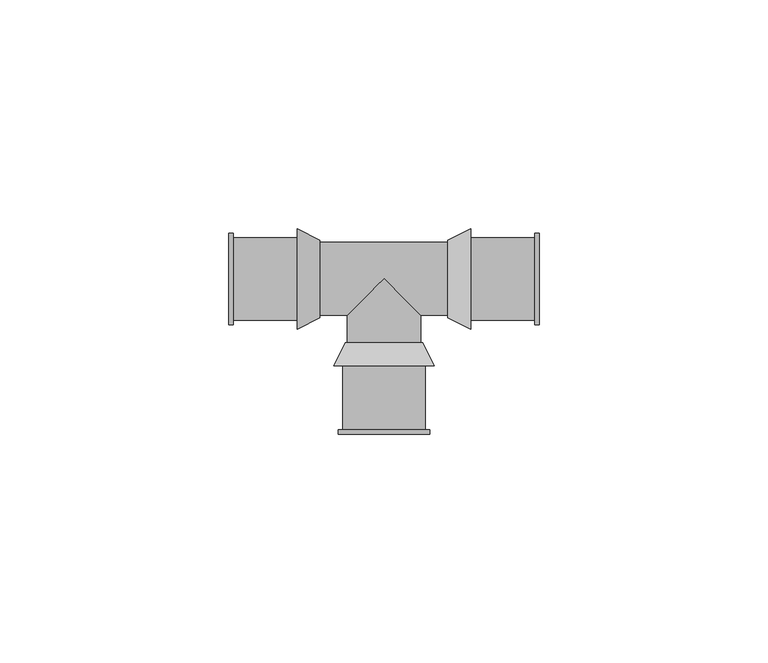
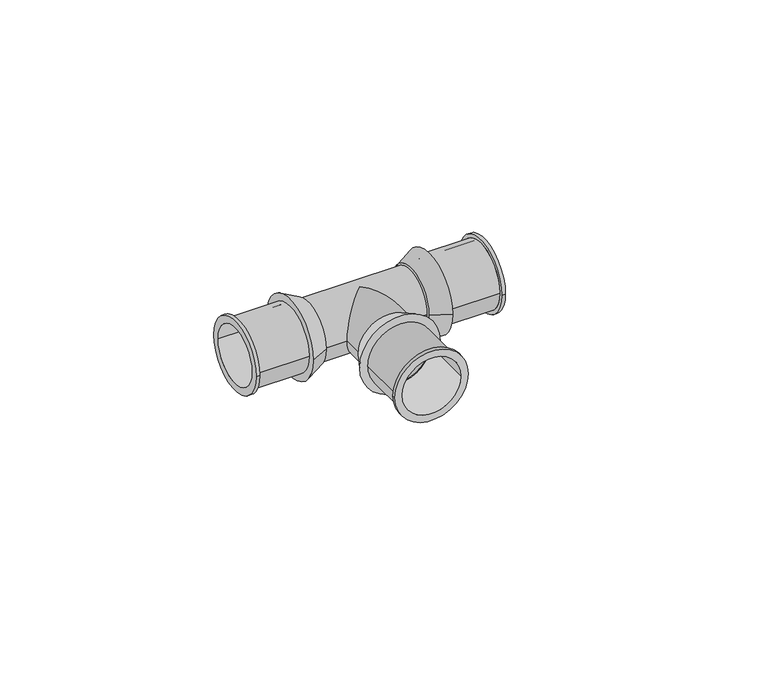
"""IFC4 building model written with IfcOpenShell, lengths in millimetres: pipe fitting geometry, SuperPipe_Tee_SPressPlus : SuperPipe_Tee_SPressPlus."""

from ifc_helpers import new_model, si_unit, point, frame, origin, origin_2d, place, context, project, spatial, polyline, circle_curve, ellipse_curve, trimmed, segment, composite_curve, outline, extrude, source, transform, mapped, element, save
from ifc_brep_helpers import plane_surface, cylinder_surface, revolved_surface, advanced_brep


def pipe_fitting_482c86fa(model_context):
    return source(origin(), model_context, "Body", "SolidModel", [
        advanced_brep(
        [(-34.0, -10.0, 0.0), (-34.0, 10.0, 0.0), (-34.0, -8.0, 0.0), (-34.0, 8.0, 0.0), (-19.0, -9.0, 0.0), (-19.0, 9.0, 0.0), (-19.0, -8.0, 0.0), (-19.0, 8.0, 0.0), (-33.0, -8.0, 0.0), (-33.0, 8.0, 0.0), (-33.0, 9.0, 0.0), (-33.0, -9.0, 0.0), (-33.0, -10.0, 0.0), (-33.0, 10.0, 0.0)],
        [
            (0, 1, circle_curve(frame((-34.0, 0.0, 0.0), z_axis=(-1.0, 0.0, 0.0), x_axis=(0.0, 1.0, 0.0)), 10.0)),
            (1, 0, circle_curve(frame((-34.0, 0.0, 0.0), z_axis=(-1.0, 0.0, 0.0), x_axis=(0.0, 1.0, 0.0)), 10.0)),
            (2, 3, circle_curve(frame((-34.0, 0.0, 0.0), z_axis=(1.0, 0.0, 0.0), x_axis=(0.0, 1.0, 0.0)), 8.0)),
            (3, 2, circle_curve(frame((-34.0, 0.0, 0.0), z_axis=(1.0, 0.0, 0.0), x_axis=(0.0, 1.0, 0.0)), 8.0)),
            (4, 5, circle_curve(frame((-19.0, 0.0, 0.0), z_axis=(1.0, 0.0, 0.0), x_axis=(0.0, 1.0, 0.0)), 9.0)),
            (5, 4, circle_curve(frame((-19.0, 0.0, 0.0), z_axis=(1.0, 0.0, 0.0), x_axis=(0.0, 1.0, 0.0)), 9.0)),
            (6, 7, circle_curve(frame((-19.0, 0.0, 0.0), z_axis=(-1.0, 0.0, 0.0), x_axis=(0.0, 1.0, 0.0)), 8.0)),
            (7, 6, circle_curve(frame((-19.0, 0.0, 0.0), z_axis=(-1.0, 0.0, 0.0), x_axis=(0.0, 1.0, 0.0)), 8.0)),
            (2, 8),
            (8, 6),
            (7, 9),
            (9, 3),
            (5, 10),
            (10, 11, circle_curve(frame((-33.0, 0.0, 0.0), z_axis=(1.0, 0.0, 0.0), x_axis=(0.0, 1.0, 0.0)), 9.0)),
            (11, 4),
            (11, 10, circle_curve(frame((-33.0, 0.0, 0.0), z_axis=(1.0, 0.0, 0.0), x_axis=(0.0, 1.0, 0.0)), 9.0)),
            (12, 13, circle_curve(frame((-33.0, 0.0, 0.0), z_axis=(1.0, 0.0, 0.0), x_axis=(0.0, 1.0, 0.0)), 10.0)),
            (13, 12, circle_curve(frame((-33.0, 0.0, 0.0), z_axis=(1.0, 0.0, 0.0), x_axis=(0.0, 1.0, 0.0)), 10.0)),
            (0, 12),
            (13, 1),
        ],
        [
            plane_surface(frame((-34.0, 0.0, 0.0), z_axis=(-1.0, 0.0, 0.0), x_axis=(0.0, 0.0, 1.0))),
            plane_surface(frame((-19.0, 0.0, 0.0), z_axis=(1.0, 0.0, 0.0), x_axis=(0.0, 0.0, 1.0))),
            revolved_surface(polyline([(-19.0, 8.0, 0.0), (-34.0, 8.0, 0.0)]), (-34.0, 0.0, 0.0), (1.0, 0.0, 0.0)),
            cylinder_surface(frame((-34.0, 0.0, 0.0), z_axis=(-1.0, 0.0, 0.0), x_axis=(0.0, 1.0, 0.0)), 9.0),
            plane_surface(frame((-33.0, 0.0, 0.0), z_axis=(1.0, 0.0, 0.0), x_axis=(0.0, 0.0, 1.0))),
            cylinder_surface(frame((-34.0, 0.0, 0.0), z_axis=(-1.0, 0.0, 0.0), x_axis=(0.0, 1.0, 0.0)), 10.0),
        ],
        [
            (0, [[1, 2], [3, 4]]),
            (1, [[5, 6], [7, 8]]),
            (2, [[-3, 9, 10, -8, 11, 12]]),
            (2, [[-4, -12, -11, -7, -10, -9]]),
            (3, [[-6, 13, 14, 15]]),
            (3, [[-5, -15, 16, -13]]),
            (4, [[17, 18], [-14, -16]]),
            (5, [[-1, 19, -18, 20]]),
            (5, [[-2, -20, -17, -19]]),
        ],
    ),
        advanced_brep(
        [(19.0, -9.0, 0.0), (19.0, 9.0, 0.0), (19.0, -8.0, 0.0), (19.0, 8.0, 0.0), (34.0, -10.0, 0.0), (34.0, 10.0, 0.0), (34.0, -8.0, 0.0), (34.0, 8.0, 0.0), (33.0, -9.0, 0.0), (33.0, 9.0, 0.0), (33.0, -8.0, 0.0), (33.0, 8.0, 0.0), (33.0, -10.0, 0.0), (33.0, 10.0, 0.0)],
        [
            (0, 1, circle_curve(frame((19.0, 0.0, 0.0), z_axis=(-1.0, 0.0, 0.0), x_axis=(0.0, 1.0, 0.0)), 9.0)),
            (1, 0, circle_curve(frame((19.0, 0.0, 0.0), z_axis=(-1.0, 0.0, 0.0), x_axis=(0.0, 1.0, 0.0)), 9.0)),
            (2, 3, circle_curve(frame((19.0, 0.0, 0.0), z_axis=(1.0, 0.0, 0.0), x_axis=(0.0, 1.0, 0.0)), 8.0)),
            (3, 2, circle_curve(frame((19.0, 0.0, 0.0), z_axis=(1.0, 0.0, 0.0), x_axis=(0.0, 1.0, 0.0)), 8.0)),
            (4, 5, circle_curve(frame((34.0, 0.0, 0.0), z_axis=(1.0, 0.0, 0.0), x_axis=(0.0, 1.0, 0.0)), 10.0)),
            (5, 4, circle_curve(frame((34.0, 0.0, 0.0), z_axis=(1.0, 0.0, 0.0), x_axis=(0.0, 1.0, 0.0)), 10.0)),
            (6, 7, circle_curve(frame((34.0, 0.0, 0.0), z_axis=(-1.0, 0.0, 0.0), x_axis=(0.0, 1.0, 0.0)), 8.0)),
            (7, 6, circle_curve(frame((34.0, 0.0, 0.0), z_axis=(-1.0, 0.0, 0.0), x_axis=(0.0, 1.0, 0.0)), 8.0)),
            (0, 8),
            (8, 9, circle_curve(frame((33.0, 0.0, 0.0), z_axis=(-1.0, 0.0, 0.0), x_axis=(0.0, 1.0, 0.0)), 9.0)),
            (9, 1),
            (9, 8, circle_curve(frame((33.0, 0.0, 0.0), z_axis=(-1.0, 0.0, 0.0), x_axis=(0.0, 1.0, 0.0)), 9.0)),
            (2, 10),
            (10, 6),
            (7, 11),
            (11, 3),
            (12, 13, circle_curve(frame((33.0, 0.0, 0.0), z_axis=(-1.0, 0.0, 0.0), x_axis=(0.0, 1.0, 0.0)), 10.0)),
            (13, 12, circle_curve(frame((33.0, 0.0, 0.0), z_axis=(-1.0, 0.0, 0.0), x_axis=(0.0, 1.0, 0.0)), 10.0)),
            (12, 4),
            (5, 13),
        ],
        [
            plane_surface(frame((19.0, 0.0, 0.0), z_axis=(-1.0, 0.0, 0.0), x_axis=(0.0, 0.0, 1.0))),
            plane_surface(frame((34.0, 0.0, 0.0), z_axis=(1.0, 0.0, 0.0), x_axis=(0.0, 0.0, 1.0))),
            cylinder_surface(frame((19.0, 0.0, 0.0), z_axis=(-1.0, 0.0, 0.0), x_axis=(0.0, 1.0, 0.0)), 9.0),
            revolved_surface(polyline([(34.0, 8.0, 0.0), (19.0, 8.0, 0.0)]), (19.0, 0.0, 0.0), (1.0, 0.0, 0.0)),
            plane_surface(frame((33.0, 0.0, 0.0), z_axis=(-1.0, 0.0, 0.0), x_axis=(0.0, 0.0, 1.0))),
            cylinder_surface(frame((33.0, 0.0, 0.0), z_axis=(-1.0, 0.0, 0.0), x_axis=(0.0, 1.0, 0.0)), 10.0),
        ],
        [
            (0, [[1, 2], [3, 4]]),
            (1, [[5, 6], [7, 8]]),
            (2, [[-1, 9, 10, 11]]),
            (2, [[-2, -11, 12, -9]]),
            (3, [[-3, 13, 14, -8, 15, 16]]),
            (3, [[-4, -16, -15, -7, -14, -13]]),
            (4, [[17, 18], [-10, -12]]),
            (5, [[-17, 19, -6, 20]]),
            (5, [[-18, -20, -5, -19]]),
        ],
    ),
        advanced_brep(
        [(-11.0, -19.0, 0.0), (11.0, -19.0, 0.0), (-8.0, -19.0, 0.0), (8.0, -19.0, 0.0), (-8.5, -14.0, 0.0), (8.5, -14.0, 0.0), (-8.0, -15.0, 0.0), (8.0, -15.0, 0.0)],
        [
            (0, 1, circle_curve(frame((0.0, -19.0, 0.0), z_axis=(0.0, -1.0, 0.0), x_axis=(-1.0, 0.0, 0.0)), 11.0)),
            (1, 0, circle_curve(frame((0.0, -19.0, 0.0), z_axis=(0.0, -1.0, 0.0), x_axis=(1.0, 0.0, 0.0)), 11.0)),
            (2, 3, circle_curve(frame((0.0, -19.0, 0.0), z_axis=(0.0, 1.0, 0.0), x_axis=(1.0, 0.0, 0.0)), 8.0)),
            (3, 2, circle_curve(frame((0.0, -19.0, 0.0), z_axis=(0.0, 1.0, 0.0), x_axis=(1.0, 0.0, 0.0)), 8.0)),
            (4, 5, circle_curve(frame((0.0, -14.0, 0.0), z_axis=(0.0, 1.0, 0.0), x_axis=(1.0, 0.0, 0.0)), 8.5)),
            (5, 4, circle_curve(frame((0.0, -14.0, 0.0), z_axis=(0.0, 1.0, 0.0), x_axis=(-1.0, 0.0, 0.0)), 8.5)),
            (0, 4),
            (5, 1),
            (6, 7, circle_curve(frame((0.0, -15.0, 0.0), z_axis=(0.0, -1.0, 0.0), x_axis=(1.0, 0.0, 0.0)), 8.0)),
            (7, 6, circle_curve(frame((0.0, -15.0, 0.0), z_axis=(0.0, -1.0, 0.0), x_axis=(1.0, 0.0, 0.0)), 8.0)),
            (7, 3),
            (2, 6),
        ],
        [
            plane_surface(frame((0.0, -19.0, 0.0), z_axis=(0.0, -1.0, 0.0), x_axis=(0.0, 0.0, -1.0))),
            plane_surface(frame((0.0, -14.0, 0.0), z_axis=(0.0, 1.0, 0.0), x_axis=(0.0, 0.0, -1.0))),
            revolved_surface(polyline([(8.5, -14.0, 0.0), (11.0, -19.0, 0.0)]), (0.0, 3.0, 0.0), (0.0, -1.0, 0.0)),
            revolved_surface(polyline([(-8.5, -14.0, 0.0), (-11.0, -19.0, 0.0)]), (0.0, 3.0, 0.0), (0.0, -1.0, 0.0)),
            plane_surface(frame((0.0, -15.0, 0.0), z_axis=(0.0, -1.0, 0.0), x_axis=(0.0, 0.0, 1.0))),
            revolved_surface(polyline([(8.0, -15.0, 0.0), (8.0, -19.0, 0.0)]), (0.0, -15.0, 0.0), (0.0, 1.0, 0.0)),
        ],
        [
            (0, [[1, 2], [3, 4]]),
            (1, [[5, 6]]),
            (2, [[-1, 7, -6, 8]]),
            (3, [[-2, -8, -5, -7]]),
            (4, [[9, 10]]),
            (5, [[-10, 11, -3, 12]]),
            (5, [[-9, -12, -4, -11]]),
        ],
    ),
        advanced_brep(
        [(19.0, -11.0, 0.0), (19.0, 11.0, 0.0), (19.0, 8.0, 0.0), (19.0, -8.0, 0.0), (14.0, -8.5, 0.0), (14.0, 8.5, 0.0), (15.0, -8.0, 0.0), (15.0, 8.0, 0.0)],
        [
            (0, 1, circle_curve(frame((19.0, 0.0, 0.0), z_axis=(1.0, 0.0, 0.0), x_axis=(0.0, -1.0, 0.0)), 11.0)),
            (1, 0, circle_curve(frame((19.0, 0.0, 0.0), z_axis=(1.0, 0.0, 0.0), x_axis=(0.0, 1.0, 0.0)), 11.0)),
            (2, 3, circle_curve(frame((19.0, 0.0, 0.0), z_axis=(-1.0, 0.0, 0.0), x_axis=(0.0, 1.0, 0.0)), 8.0)),
            (3, 2, circle_curve(frame((19.0, 0.0, 0.0), z_axis=(-1.0, 0.0, 0.0), x_axis=(0.0, 1.0, 0.0)), 8.0)),
            (4, 5, circle_curve(frame((14.0, 0.0, 0.0), z_axis=(-1.0, 0.0, 0.0), x_axis=(0.0, 1.0, 0.0)), 8.5)),
            (5, 4, circle_curve(frame((14.0, 0.0, 0.0), z_axis=(-1.0, 0.0, 0.0), x_axis=(0.0, -1.0, 0.0)), 8.5)),
            (0, 4),
            (5, 1),
            (6, 7, circle_curve(frame((15.0, 0.0, 0.0), z_axis=(1.0, 0.0, 0.0), x_axis=(0.0, 1.0, 0.0)), 8.0)),
            (7, 6, circle_curve(frame((15.0, 0.0, 0.0), z_axis=(1.0, 0.0, 0.0), x_axis=(0.0, 1.0, 0.0)), 8.0)),
            (6, 3),
            (2, 7),
        ],
        [
            plane_surface(frame((19.0, 0.0, 0.0), z_axis=(1.0, 0.0, 0.0), x_axis=(0.0, 0.0, -1.0))),
            plane_surface(frame((14.0, 0.0, 0.0), z_axis=(-1.0, 0.0, 0.0), x_axis=(0.0, 0.0, -1.0))),
            revolved_surface(polyline([(14.0, 8.5, 0.0), (19.0, 11.0, 0.0)]), (-3.0, 0.0, 0.0), (1.0, 0.0, 0.0)),
            revolved_surface(polyline([(14.0, -8.5, 0.0), (19.0, -11.0, 0.0)]), (-3.0, 0.0, 0.0), (1.0, 0.0, 0.0)),
            plane_surface(frame((15.0, 8.0, 0.0), z_axis=(1.0, 0.0, 0.0), x_axis=(0.0, 0.0, -1.0))),
            revolved_surface(polyline([(19.0, 8.0, 0.0), (15.0, 8.0, 0.0)]), (15.0, 0.0, 0.0), (1.0, 0.0, 0.0)),
        ],
        [
            (0, [[1, 2], [3, 4]]),
            (1, [[5, 6]]),
            (2, [[-1, 7, -6, 8]]),
            (3, [[-2, -8, -5, -7]]),
            (4, [[9, 10]]),
            (5, [[-9, 11, -3, 12]]),
            (5, [[-10, -12, -4, -11]]),
        ],
    ),
        advanced_brep(
        [(-14.0, -8.5, 0.0), (-14.0, 8.5, 0.0), (-19.0, -11.0, 0.0), (-19.0, 11.0, 0.0), (-19.0, -8.0, 0.0), (-19.0, 8.0, 0.0), (-15.0, -8.0, 0.0), (-15.0, 8.0, 0.0)],
        [
            (0, 1, circle_curve(frame((-14.0, 0.0, 0.0), z_axis=(1.0, 0.0, 0.0), x_axis=(0.0, -1.0, 0.0)), 8.5)),
            (1, 0, circle_curve(frame((-14.0, 0.0, 0.0), z_axis=(1.0, 0.0, 0.0), x_axis=(0.0, 1.0, 0.0)), 8.5)),
            (2, 3, circle_curve(frame((-19.0, 0.0, 0.0), z_axis=(-1.0, 0.0, 0.0), x_axis=(0.0, 1.0, 0.0)), 11.0)),
            (3, 2, circle_curve(frame((-19.0, 0.0, 0.0), z_axis=(-1.0, 0.0, 0.0), x_axis=(0.0, -1.0, 0.0)), 11.0)),
            (4, 5, circle_curve(frame((-19.0, 0.0, 0.0), z_axis=(1.0, 0.0, 0.0), x_axis=(0.0, 1.0, 0.0)), 8.0)),
            (5, 4, circle_curve(frame((-19.0, 0.0, 0.0), z_axis=(1.0, 0.0, 0.0), x_axis=(0.0, 1.0, 0.0)), 8.0)),
            (0, 2),
            (3, 1),
            (6, 7, circle_curve(frame((-15.0, 0.0, 0.0), z_axis=(-1.0, 0.0, 0.0), x_axis=(0.0, 1.0, 0.0)), 8.0)),
            (7, 6, circle_curve(frame((-15.0, 0.0, 0.0), z_axis=(-1.0, 0.0, 0.0), x_axis=(0.0, 1.0, 0.0)), 8.0)),
            (7, 5),
            (4, 6),
        ],
        [
            plane_surface(frame((-14.0, 0.0, 0.0), z_axis=(1.0, 0.0, 0.0), x_axis=(0.0, 0.0, -1.0))),
            plane_surface(frame((-19.0, 0.0, 0.0), z_axis=(-1.0, 0.0, 0.0), x_axis=(0.0, 0.0, -1.0))),
            revolved_surface(polyline([(-14.0, -8.5, 0.0), (-19.0, -11.0, 0.0)]), (3.0, 0.0, 0.0), (-1.0, 0.0, 0.0)),
            revolved_surface(polyline([(-14.0, 8.5, 0.0), (-19.0, 11.0, 0.0)]), (3.0, 0.0, 0.0), (-1.0, 0.0, 0.0)),
            plane_surface(frame((-15.0, 8.0, 0.0), z_axis=(-1.0, 0.0, 0.0), x_axis=(0.0, 0.0, 1.0))),
            revolved_surface(polyline([(-15.0, 8.0, 0.0), (-19.0, 8.0, 0.0)]), (-19.0, 0.0, 0.0), (1.0, 0.0, 0.0)),
        ],
        [
            (0, [[1, 2]]),
            (1, [[3, 4], [5, 6]]),
            (2, [[-1, 7, -4, 8]]),
            (3, [[-2, -8, -3, -7]]),
            (4, [[9, 10]]),
            (5, [[-10, 11, -5, 12]]),
            (5, [[-9, -12, -6, -11]]),
        ],
    ),
        advanced_brep(
        [(-8.0, -14.0, 0.0), (8.0, -14.0, 0.0), (8.0, -8.0, 0.0), (0.0, 0.0, 8.0), (-8.0, -8.0, 0.0), (0.0, 0.0, -8.0)],
        [
            (0, 1, circle_curve(frame((0.0, -14.0, 0.0), z_axis=(0.0, -1.0, 0.0), x_axis=(1.0, 0.0, 0.0)), 8.0)),
            (1, 0, circle_curve(frame((0.0, -14.0, 0.0), z_axis=(0.0, -1.0, 0.0), x_axis=(1.0, 0.0, 0.0)), 8.0)),
            (1, 2),
            (2, 3, ellipse_curve(frame((0.0, 0.0, 0.0), z_axis=(-0.7071067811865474, -0.7071067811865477, 0.0), x_axis=(-0.7071067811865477, 0.7071067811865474, 0.0)), 11.3137085, 8.0)),
            (3, 4, ellipse_curve(frame((0.0, 0.0, 0.0), z_axis=(0.7071067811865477, -0.7071067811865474, 0.0), x_axis=(0.7071067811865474, 0.7071067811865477, 0.0)), 11.3137085, 8.0)),
            (4, 0),
            (4, 5, ellipse_curve(frame((0.0, 0.0, 0.0), z_axis=(0.7071067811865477, -0.7071067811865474, 0.0), x_axis=(0.7071067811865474, 0.7071067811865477, 0.0)), 11.3137085, 8.0)),
            (5, 2, ellipse_curve(frame((0.0, 0.0, 0.0), z_axis=(-0.7071067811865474, -0.7071067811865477, 0.0), x_axis=(-0.7071067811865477, 0.7071067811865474, 0.0)), 11.3137085, 8.0)),
            (2, 4),
        ],
        [
            plane_surface(frame((0.0, -14.0, 0.0), z_axis=(0.0, -1.0, 0.0), x_axis=(0.0, 0.0, 1.0))),
            cylinder_surface(frame((0.0, 0.0, 0.0), z_axis=(0.0, 1.0, 0.0), x_axis=(1.0, 0.0, 0.0)), 8.0),
            revolved_surface(polyline([(-8.00000000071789, 8.0, 0.0), (8.00000000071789, 8.0, 0.0)]), (-90.8358145, 0.0, 0.0), (-1.0, 0.0, 0.0)),
        ],
        [
            (0, [[1, 2]]),
            (1, [[-2, 3, 4, 5, 6]]),
            (1, [[-1, -6, 7, 8, -3]]),
            (2, [[9, -5, -4]]),
            (2, [[-9, -8, -7]]),
        ],
    ),
        advanced_brep(
        [(-9.0, -19.0, 0.0), (9.0, -19.0, 0.0), (-8.0, -19.0, 0.0), (8.0, -19.0, 0.0), (-10.0, -34.0, 0.0), (10.0, -34.0, 0.0), (-8.0, -34.0, 0.0), (8.0, -34.0, 0.0), (-9.0, -33.0, 0.0), (9.0, -33.0, 0.0), (-10.0, -33.0, 0.0), (10.0, -33.0, 0.0)],
        [
            (0, 1, circle_curve(frame((0.0, -19.0, 0.0), z_axis=(0.0, 1.0, 0.0), x_axis=(1.0, 0.0, 0.0)), 9.0)),
            (1, 0, circle_curve(frame((0.0, -19.0, 0.0), z_axis=(0.0, 1.0, 0.0), x_axis=(1.0, 0.0, 0.0)), 9.0)),
            (2, 3, circle_curve(frame((0.0, -19.0, 0.0), z_axis=(0.0, -1.0, 0.0), x_axis=(1.0, 0.0, 0.0)), 8.0)),
            (3, 2, circle_curve(frame((0.0, -19.0, 0.0), z_axis=(0.0, -1.0, 0.0), x_axis=(1.0, 0.0, 0.0)), 8.0)),
            (4, 5, circle_curve(frame((0.0, -34.0, 0.0), z_axis=(0.0, -1.0, 0.0), x_axis=(1.0, 0.0, 0.0)), 10.0)),
            (5, 4, circle_curve(frame((0.0, -34.0, 0.0), z_axis=(0.0, -1.0, 0.0), x_axis=(1.0, 0.0, 0.0)), 10.0)),
            (6, 7, circle_curve(frame((0.0, -34.0, 0.0), z_axis=(0.0, 1.0, 0.0), x_axis=(1.0, 0.0, 0.0)), 8.0)),
            (7, 6, circle_curve(frame((0.0, -34.0, 0.0), z_axis=(0.0, 1.0, 0.0), x_axis=(1.0, 0.0, 0.0)), 8.0)),
            (2, 6),
            (7, 3),
            (0, 8),
            (8, 9, circle_curve(frame((0.0, -33.0, 0.0), z_axis=(0.0, 1.0, 0.0), x_axis=(1.0, 0.0, 0.0)), 9.0)),
            (9, 1),
            (9, 8, circle_curve(frame((0.0, -33.0, 0.0), z_axis=(0.0, 1.0, 0.0), x_axis=(1.0, 0.0, 0.0)), 9.0)),
            (10, 11, circle_curve(frame((0.0, -33.0, 0.0), z_axis=(0.0, 1.0, 0.0), x_axis=(1.0, 0.0, 0.0)), 10.0)),
            (11, 10, circle_curve(frame((0.0, -33.0, 0.0), z_axis=(0.0, 1.0, 0.0), x_axis=(1.0, 0.0, 0.0)), 10.0)),
            (10, 4),
            (5, 11),
        ],
        [
            plane_surface(frame((0.0, -19.0, 0.0), z_axis=(0.0, 1.0, 0.0), x_axis=(0.0, 0.0, 1.0))),
            plane_surface(frame((0.0, -34.0, 0.0), z_axis=(0.0, -1.0, 0.0), x_axis=(0.0, 0.0, 1.0))),
            revolved_surface(polyline([(8.0, -34.0, 0.0), (8.0, -19.0, 0.0)]), (0.0, -19.0, 0.0), (0.0, -1.0, 0.0)),
            cylinder_surface(frame((0.0, -19.0, 0.0), z_axis=(0.0, 1.0, 0.0), x_axis=(1.0, 0.0, 0.0)), 9.0),
            plane_surface(frame((0.0, -33.0, 0.0), z_axis=(0.0, 1.0, 0.0), x_axis=(0.0, 0.0, 1.0))),
            cylinder_surface(frame((0.0, -33.0, 0.0), z_axis=(0.0, 1.0, 0.0), x_axis=(1.0, 0.0, 0.0)), 10.0),
        ],
        [
            (0, [[1, 2], [3, 4]]),
            (1, [[5, 6], [7, 8]]),
            (2, [[-3, 9, -8, 10]]),
            (2, [[-4, -10, -7, -9]]),
            (3, [[-1, 11, 12, 13]]),
            (3, [[-2, -13, 14, -11]]),
            (4, [[15, 16], [-12, -14]]),
            (5, [[-15, 17, -6, 18]]),
            (5, [[-16, -18, -5, -17]]),
        ],
    ),
        extrude(outline(composite_curve([segment(trimmed(circle_curve(origin_2d(), 8.0), [point((-8.0, 0.0))], [point((8.0, 0.0))], False, "CARTESIAN"), True, "CONTINUOUS"), segment(trimmed(circle_curve(origin_2d(), 8.0), [point((8.0, 0.0))], [point((-8.0, 0.0))], False, "CARTESIAN"), True, "CONTINUOUS")], self_intersect=False)), frame((-14.0, 0.0, 0.0), z_axis=(1.0, 0.0, 0.0), x_axis=(0.0, 1.0, 0.0)), (0.0, 0.0, 1.0), 28.0),
    ])


if __name__ == "__main__":
    model = new_model("IFC4")
    model_context = context("Model", 3, world=origin())
    ifc_project = project(units=[si_unit("LENGTHUNIT", "METRE", prefix="MILLI")], contexts=[model_context])
    site = spatial("IfcSite", under=ifc_project)
    building = spatial("IfcBuilding", under=site)
    placement = place(None, origin())
    pipe_fitting_shape = pipe_fitting_482c86fa(model_context)
    element("IfcPipeFitting", 1, ObjectType="SuperPipe_Tee_SPressPlus : SuperPipe_Tee_SPressPlus", at=placement, inside=building, context=model_context, shape_type="MappedRepresentation", body=[
        mapped(pipe_fitting_shape, transform((0.0, 0.0, 0.0), x_axis=(1.0, 0.0, 0.0), y_axis=(0.0, 1.0, 0.0), z_axis=(0.0, 0.0, 1.0))),
    ])
    save(model, "model.ifc")
